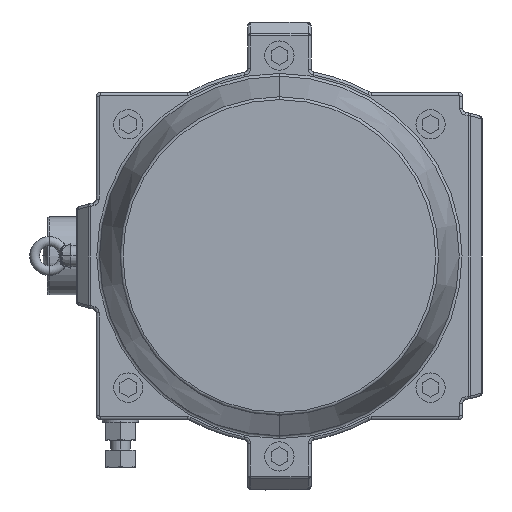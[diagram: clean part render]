
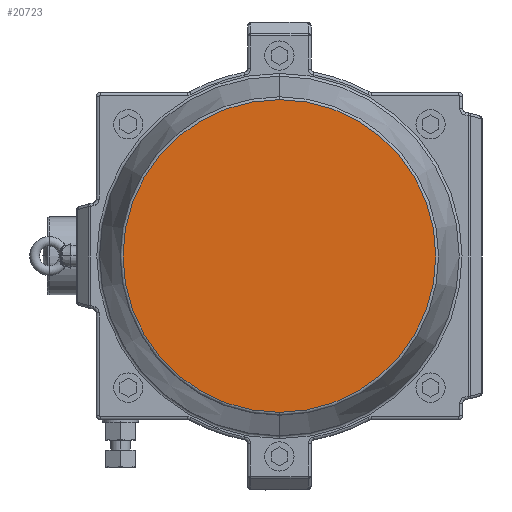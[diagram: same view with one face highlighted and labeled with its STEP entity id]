
A CAD part, left-side view. The second image highlights one B-rep face of the part: STEP entity #20723.
In plain terms, the highlighted planar face has unit normal (-1, 0, 0).
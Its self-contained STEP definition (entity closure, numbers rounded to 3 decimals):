
#673 = AXIS2_PLACEMENT_3D ( 'NONE', #4776, #18722, #22329 ) ;
#1215 = AXIS2_PLACEMENT_3D ( 'NONE', #11014, #9071, #16359 ) ;
#4367 = ORIENTED_EDGE ( 'NONE', *, *, #19430, .T. ) ;
#4657 = CARTESIAN_POINT ( 'NONE',  ( -462.5, 0., -160.391 ) ) ;
#4776 = CARTESIAN_POINT ( 'NONE',  ( -462.5, 0., 0. ) ) ;
#5761 = CARTESIAN_POINT ( 'NONE',  ( -462.5, 0., 160.391 ) ) ;
#7974 = FACE_OUTER_BOUND ( 'NONE', #13960, .T. ) ;
#8984 = PLANE ( 'NONE',  #1215 ) ;
#9071 = DIRECTION ( 'NONE',  ( -1., 0., 0. ) ) ;
#10291 = ORIENTED_EDGE ( 'NONE', *, *, #19390, .T. ) ;
#10503 = CIRCLE ( 'NONE', #18491, 160.391 ) ;
#11014 = CARTESIAN_POINT ( 'NONE',  ( -462.5, 0., 0. ) ) ;
#11836 = VERTEX_POINT ( 'NONE', #4657 ) ;
#13522 = CARTESIAN_POINT ( 'NONE',  ( -462.5, 0., 0. ) ) ;
#13960 = EDGE_LOOP ( 'NONE', ( #10291, #4367 ) ) ;
#15283 = DIRECTION ( 'NONE',  ( 0., 0., 1. ) ) ;
#16359 = DIRECTION ( 'NONE',  ( 0., 0., 1. ) ) ;
#16908 = CIRCLE ( 'NONE', #673, 160.391 ) ;
#16965 = DIRECTION ( 'NONE',  ( -1., 0., 0. ) ) ;
#18491 = AXIS2_PLACEMENT_3D ( 'NONE', #13522, #16965, #15283 ) ;
#18722 = DIRECTION ( 'NONE',  ( -1., 0., 0. ) ) ;
#19390 = EDGE_CURVE ( 'NONE', #19741, #11836, #10503, .T. ) ;
#19430 = EDGE_CURVE ( 'NONE', #11836, #19741, #16908, .T. ) ;
#19741 = VERTEX_POINT ( 'NONE', #5761 ) ;
#20723 = ADVANCED_FACE ( 'NONE', ( #7974 ), #8984, .T. ) ;
#22329 = DIRECTION ( 'NONE',  ( 0., 0., 1. ) ) ;
